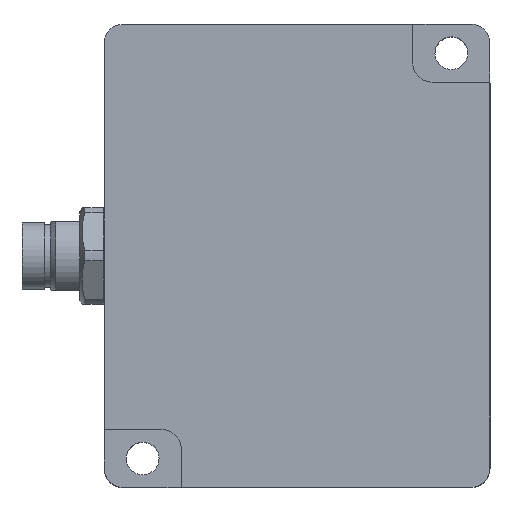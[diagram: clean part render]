
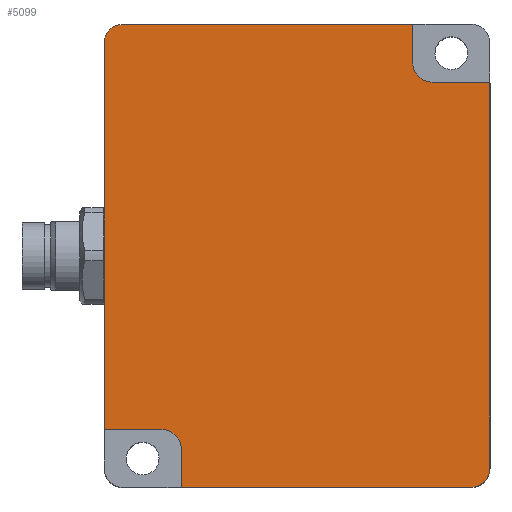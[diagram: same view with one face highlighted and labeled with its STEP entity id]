
A CAD part, top view. The second image highlights one B-rep face of the part: STEP entity #5099.
In plain terms, the highlighted planar face has unit normal (0, 0, 1) as drawn and (0, 0, -1) by its records, which use the part's own axes.
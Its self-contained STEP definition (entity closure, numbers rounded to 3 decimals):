
#3557=CARTESIAN_POINT('',(8.,-4.,0.0));
#3558=VERTEX_POINT('',#3557);
#3565=CARTESIAN_POINT('',(6.,-6.,0.0));
#3566=VERTEX_POINT('',#3565);
#3567=CARTESIAN_POINT('',(6.,-4.,0.0));
#3568=DIRECTION('',(0.0,0.0,1.0));
#3569=DIRECTION('',(0.707,-0.707,0.0));
#3570=AXIS2_PLACEMENT_3D('',#3567,#3568,#3569);
#3571=CIRCLE('',#3570,2.0);
#3572=EDGE_CURVE('',#3558,#3566,#3571,.F.);
#3640=CARTESIAN_POINT('',(0.,-6.,0.0));
#3641=VERTEX_POINT('',#3640);
#3642=CARTESIAN_POINT('',(0.,-6.,0.0));
#3643=DIRECTION('',(1.0,0.0,0.0));
#3644=VECTOR('',#3643,6.0);
#3645=LINE('',#3642,#3644);
#3646=EDGE_CURVE('',#3641,#3566,#3645,.T.);
#3674=CARTESIAN_POINT('',(32.0,-44.0,0.0));
#3675=VERTEX_POINT('',#3674);
#3682=CARTESIAN_POINT('',(34.0,-42.0,0.0));
#3683=VERTEX_POINT('',#3682);
#3684=CARTESIAN_POINT('',(34.0,-44.0,0.0));
#3685=DIRECTION('',(0.0,0.0,1.0));
#3686=DIRECTION('',(-0.707,0.707,0.0));
#3687=AXIS2_PLACEMENT_3D('',#3684,#3685,#3686);
#3688=CIRCLE('',#3687,2.);
#3689=EDGE_CURVE('',#3675,#3683,#3688,.F.);
#3757=CARTESIAN_POINT('',(40.0,-42.0,0.0));
#3758=VERTEX_POINT('',#3757);
#3759=CARTESIAN_POINT('',(40.0,-42.0,0.0));
#3760=DIRECTION('',(-1.0,0.0,0.0));
#3761=VECTOR('',#3760,6.0);
#3762=LINE('',#3759,#3761);
#3763=EDGE_CURVE('',#3758,#3683,#3762,.T.);
#4821=CARTESIAN_POINT('',(40.0,-2.,0.0));
#4822=VERTEX_POINT('',#4821);
#4823=CARTESIAN_POINT('',(40.0,-42.0,0.0));
#4824=DIRECTION('',(0.0,1.0,0.0));
#4825=VECTOR('',#4824,40.0);
#4826=LINE('',#4823,#4825);
#4827=EDGE_CURVE('',#3758,#4822,#4826,.T.);
#4846=CARTESIAN_POINT('',(8.,0.,0.0));
#4847=VERTEX_POINT('',#4846);
#4854=CARTESIAN_POINT('',(8.,-4.,0.0));
#4855=DIRECTION('',(0.0,1.0,0.0));
#4856=VECTOR('',#4855,4.);
#4857=LINE('',#4854,#4856);
#4858=EDGE_CURVE('',#3558,#4847,#4857,.T.);
#4870=CARTESIAN_POINT('',(32.0,-48.0,0.0));
#4871=VERTEX_POINT('',#4870);
#4878=CARTESIAN_POINT('',(32.0,-44.0,0.0));
#4879=DIRECTION('',(0.0,-1.0,0.0));
#4880=VECTOR('',#4879,4.0);
#4881=LINE('',#4878,#4880);
#4882=EDGE_CURVE('',#3675,#4871,#4881,.T.);
#4921=CARTESIAN_POINT('',(38.,0.,0.0));
#4922=VERTEX_POINT('',#4921);
#4929=CARTESIAN_POINT('',(38.,0.,0.0));
#4930=DIRECTION('',(-1.0,0.0,0.0));
#4931=VECTOR('',#4930,30.);
#4932=LINE('',#4929,#4931);
#4933=EDGE_CURVE('',#4922,#4847,#4932,.T.);
#4955=CARTESIAN_POINT('',(38.0,-2.,0.0));
#4956=DIRECTION('',(0.0,0.0,1.0));
#4957=DIRECTION('',(1.0,0.0,0.0));
#4958=AXIS2_PLACEMENT_3D('',#4955,#4956,#4957);
#4959=CIRCLE('',#4958,2.);
#4960=EDGE_CURVE('',#4822,#4922,#4959,.T.);
#4991=CARTESIAN_POINT('',(2.,-48.,0.0));
#4992=VERTEX_POINT('',#4991);
#4999=CARTESIAN_POINT('',(2.,-48.,0.0));
#5000=DIRECTION('',(1.0,0.0,0.0));
#5001=VECTOR('',#5000,30.);
#5002=LINE('',#4999,#5001);
#5003=EDGE_CURVE('',#4992,#4871,#5002,.T.);
#5019=CARTESIAN_POINT('',(0.,-46.,0.0));
#5020=VERTEX_POINT('',#5019);
#5027=CARTESIAN_POINT('',(2.,-46.0,0.0));
#5028=DIRECTION('',(0.0,0.0,1.0));
#5029=DIRECTION('',(-1.0,0.0,0.0));
#5030=AXIS2_PLACEMENT_3D('',#5027,#5028,#5029);
#5031=CIRCLE('',#5030,2.);
#5032=EDGE_CURVE('',#5020,#4992,#5031,.T.);
#5052=CARTESIAN_POINT('',(0.,-6.,0.0));
#5053=DIRECTION('',(0.0,-1.0,0.0));
#5054=VECTOR('',#5053,40.);
#5055=LINE('',#5052,#5054);
#5056=EDGE_CURVE('',#3641,#5020,#5055,.T.);
#5080=CARTESIAN_POINT('',(20.,-24.,0.0));
#5081=DIRECTION('',(0.0,0.0,1.0));
#5082=DIRECTION('',(1.0,0.0,0.0));
#5083=AXIS2_PLACEMENT_3D('',#5080,#5081,#5082);
#5084=PLANE('',#5083);
#5085=ORIENTED_EDGE('',*,*,#4858,.T.);
#5086=ORIENTED_EDGE('',*,*,#4933,.F.);
#5087=ORIENTED_EDGE('',*,*,#4960,.F.);
#5088=ORIENTED_EDGE('',*,*,#4827,.F.);
#5089=ORIENTED_EDGE('',*,*,#3763,.T.);
#5090=ORIENTED_EDGE('',*,*,#3689,.F.);
#5091=ORIENTED_EDGE('',*,*,#4882,.T.);
#5092=ORIENTED_EDGE('',*,*,#5003,.F.);
#5093=ORIENTED_EDGE('',*,*,#5032,.F.);
#5094=ORIENTED_EDGE('',*,*,#5056,.F.);
#5095=ORIENTED_EDGE('',*,*,#3646,.T.);
#5096=ORIENTED_EDGE('',*,*,#3572,.F.);
#5097=EDGE_LOOP('',(#5085,#5086,#5087,#5088,#5089,#5090,#5091,#5092,#5093,#5094,#5095,#5096));
#5098=FACE_OUTER_BOUND('',#5097,.T.);
#5099=ADVANCED_FACE('',(#5098),#5084,.F.);
